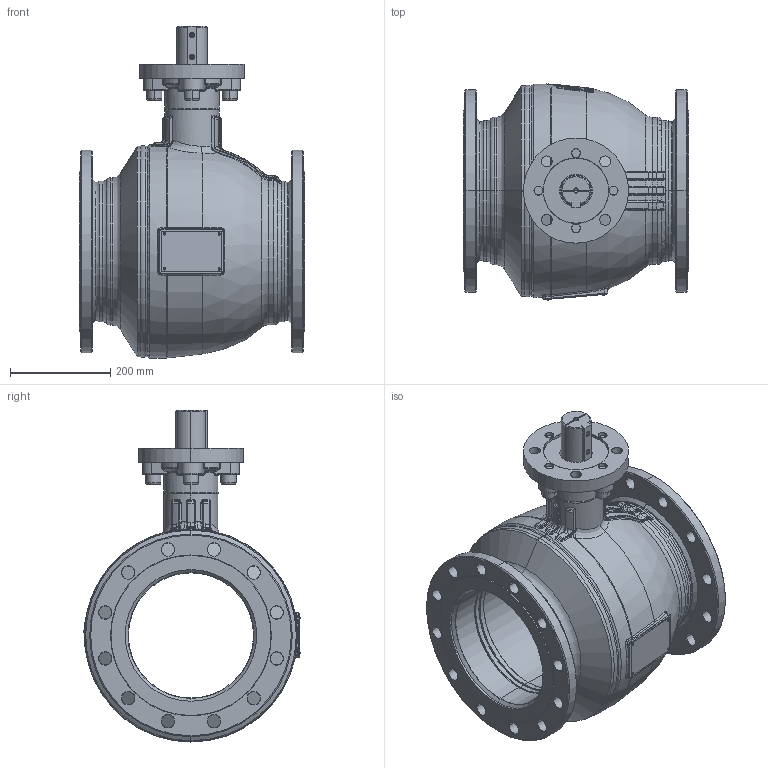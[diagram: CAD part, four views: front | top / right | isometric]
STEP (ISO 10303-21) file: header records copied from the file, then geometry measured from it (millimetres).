
FILE_DESCRIPTION((''),'2;1');
FILE_NAME('KHMO-F-V-250P016-VII-_SW0001','2026-09-30T11:39:29',('jeitlers'),('KLINGER'),'CREO PARAMETRIC BY PTC INC, 2025443','CREO PARAMETRIC BY PTC INC, 2025443','');
FILE_SCHEMA(('CONFIG_CONTROL_DESIGN'));
Products named in the file (1): KHMO-F-V-250P016-VII-_SW0001
Bounding box: 450 x 432.21 x 663.5 mm (x, y, z)
Volume: 15034060.4 mm3; surface area: 2942790.1 mm2
Topology: 6 solids, 6 shells, 1621 faces, 3979 edges, 2414 vertices
Faces by surface type: plane 615, cylinder 311, cone 238, bspline 232, torus 191, sphere 34
Entity records: 80418 total; most frequent: CARTESIAN_POINT 44355, ORIENTED_EDGE 7922, DIRECTION 7075, EDGE_CURVE 3961, AXIS2_PLACEMENT_3D 2943, VERTEX_POINT 2414, EDGE_LOOP 1765, FACE_OUTER_BOUND 1621
